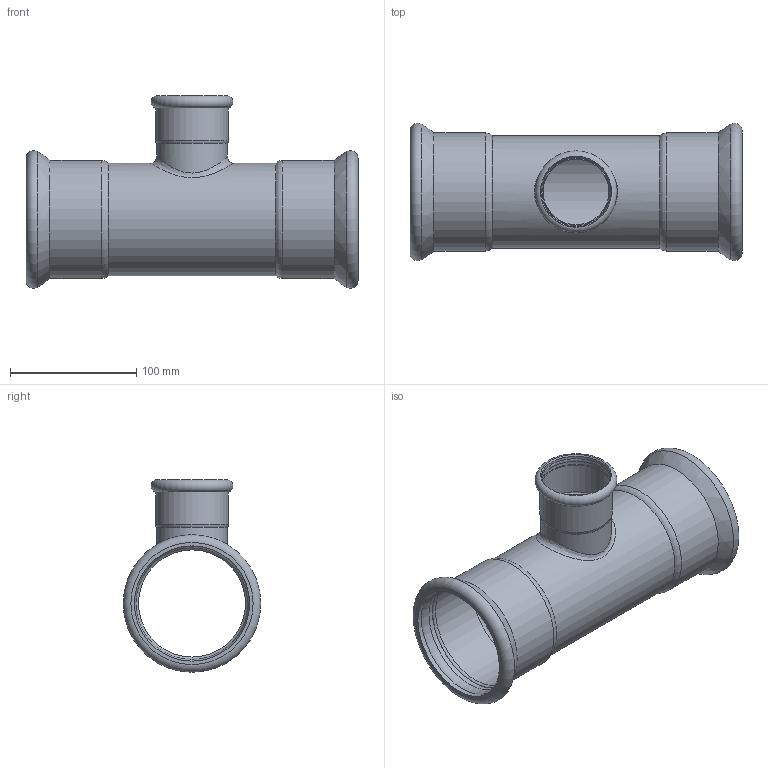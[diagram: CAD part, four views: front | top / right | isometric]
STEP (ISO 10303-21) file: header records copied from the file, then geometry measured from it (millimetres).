
FILE_DESCRIPTION(/* description */ ('TEE RIDOTTO 88,9-54-88,9'),/* implementation_level */ '2;1');
FILE_NAME(/* name */ 'T:\A_ARTICOLI\ARTICOLI PRODOTTI_WEB\Articoli_STEELPRES_WEB\Temporary Step\392088054_Steelpres.ipt.step',/* time_stamp */ '2016-01-19T16:43:15+01:00',/* author */ ('Ghirlinghelli Diego'),/* organization */ (''),/* preprocessor_version */ 'ST-DEVELOPER v15.2',/* originating_system */ 'Autodesk Inventor 2014',/* authorisation */ 'R.M. S.p.A. si riserva a termini di legge la proprietà del presente disegno con divieto di riprodurlo o comunicarlo a terzi senza sua autorizzazione scritta');
FILE_SCHEMA (('AUTOMOTIVE_DESIGN { 1 0 10303 214 3 1 1 }'));
Length unit declared in the file: millimetre
Products named in the file (1): 392088054_Steelpres
Bounding box: 263 x 108.99 x 152.54 mm (x, y, z)
Volume: 221345.2 mm3; surface area: 171558.7 mm2
Topology: 1 solids, 1 shells, 42 faces, 98 edges, 59 vertices
Faces by surface type: cylinder 17, torus 15, bspline 4, cone 3, plane 3
Full cylindrical faces by diameter (mm): 52 x1, 53 x1, 54.5 x1, 54.7 x2, 56 x1, 57.5 x1, 84.9 x1, 88.9 x1, 89.5 x2, 91.3 x4, 93.5 x2
Entity records: 1476 total; most frequent: CARTESIAN_POINT 701, DIRECTION 168, ORIENTED_EDGE 102, AXIS2_PLACEMENT_3D 84, EDGE_LOOP 82, EDGE_CURVE 51, VERTEX_POINT 47, CIRCLE 45
